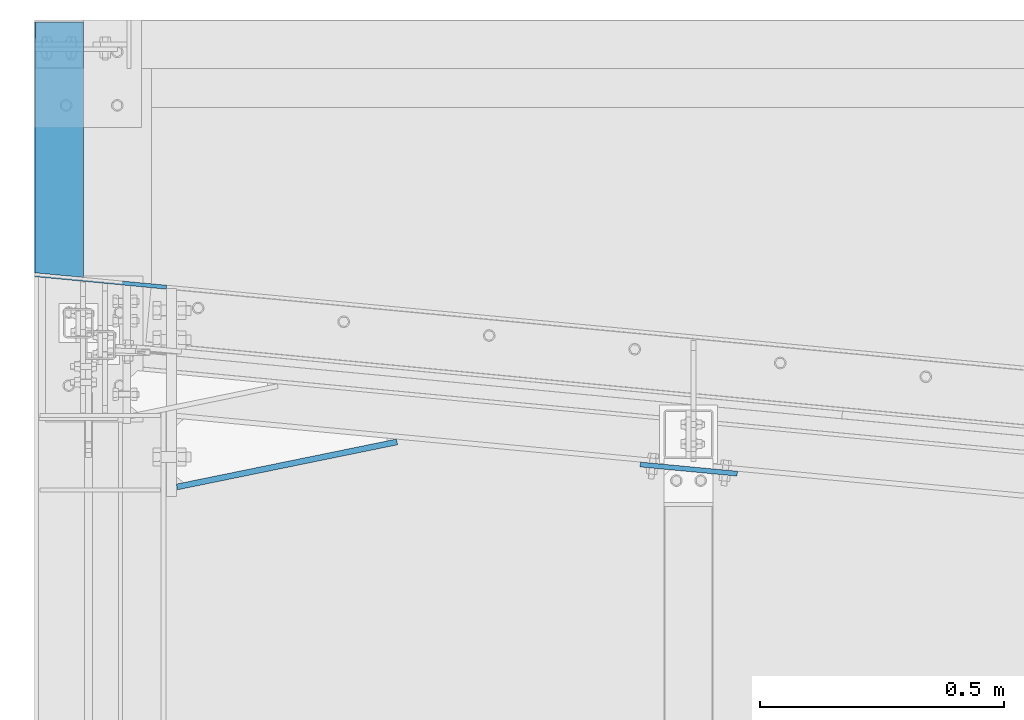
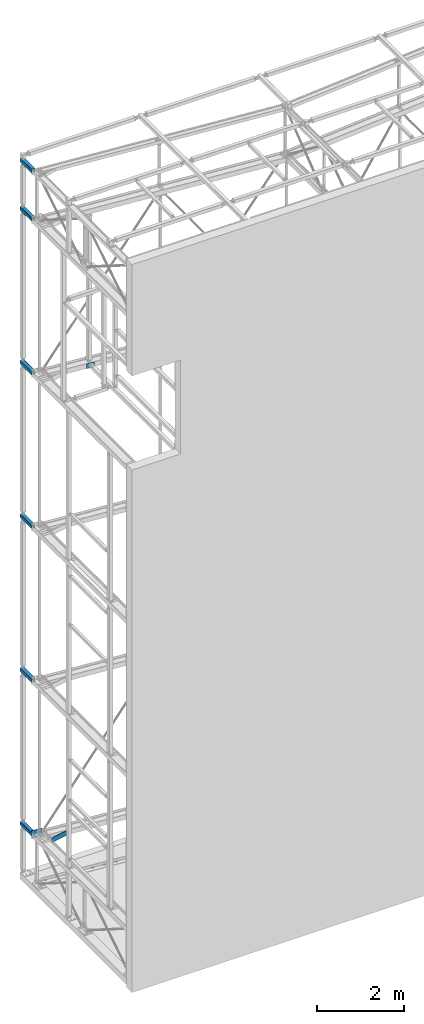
# One storey, part 76 of 271: 9 beams, 8 elements without a shape of their own.
"""IFC2X3 building model written with IfcOpenShell, lengths in millimetres."""

import ifcopenshell
import ifcopenshell.guid

model = None  # the IFC model being written
_history = None  # IfcOwnerHistory: only IFC2X3 demands one
_inside = {}  # id of a spatial element -> (the spatial element, [elements in it])
_under = {}  # id of a project, library or spatial element -> (it, [spatial elements below it])
_declared = {}  # id of a project -> (the project, [libraries it declares])
_typed = {}  # id of a type object -> (the type object, [elements of that type])
_made_of = {}  # id of a material, layer set ... -> (it, [elements and type objects made of it])


def new_model(schema):
    """Start an empty IFC model of exactly this schema.

    Asked for "IFC4X3", IfcOpenShell would pick the latest addendum, in which some entities
    have other attributes; the version numbers below select the first issue.
    IFC2X3 requires an IfcOwnerHistory on every rooted entity: one is made here for all.
    """
    global model, _history
    if schema == "IFC4X3":
        model = ifcopenshell.file(schema_version=(4, 3, 0, 0))
    else:
        model = ifcopenshell.file(schema=schema)
    _inside.clear()
    _under.clear()
    _declared.clear()
    _typed.clear()
    _made_of.clear()
    _history = None
    if model.schema == "IFC2X3":
        org = make("IfcOrganization", Name="unknown")
        user = make(
            "IfcPersonAndOrganization",
            ThePerson=make("IfcPerson", FamilyName="unknown"),
            TheOrganization=org,
        )
        app = make(
            "IfcApplication",
            ApplicationDeveloper=org,
            Version="unknown",
            ApplicationFullName="unknown",
            ApplicationIdentifier="unknown",
        )
        _history = make(
            "IfcOwnerHistory",
            OwningUser=user,
            OwningApplication=app,
            ChangeAction="ADDED",
            CreationDate=0,
        )
    return model


def make(cls, **values):
    """One entity of the class cls with the attributes given. An attribute that is None is left unset."""
    return model.create_entity(
        cls, **{name: value for name, value in values.items() if value is not None}
    )


def rooted(cls, **values):
    """An entity with a GlobalId (a new one), such as an element, a storey or a relation."""
    return make(cls, GlobalId=ifcopenshell.guid.new(), OwnerHistory=_history, **values)


def si_unit(unit_type, name, prefix=None):
    """IfcSIUnit, for example si_unit("LENGTHUNIT", "METRE", prefix="MILLI")."""
    return make("IfcSIUnit", UnitType=unit_type, Prefix=prefix, Name=name)


def assignment(units):
    """IfcUnitAssignment: the units of a project."""
    return None if units is None else make("IfcUnitAssignment", Units=units)


def point(xyz):
    """IfcCartesianPoint."""
    return None if xyz is None else make("IfcCartesianPoint", Coordinates=xyz)


def direction(xyz):
    """IfcDirection."""
    return None if xyz is None else make("IfcDirection", DirectionRatios=xyz)


def frame(location, z_axis=None, x_axis=None):
    """IfcAxis2Placement3D, a coordinate frame: its origin and axes. An axis left out is left unset."""
    return make(
        "IfcAxis2Placement3D",
        Location=point(location),
        Axis=direction(z_axis),
        RefDirection=direction(x_axis),
    )


def frame_2d(location, x_axis=None):
    """IfcAxis2Placement2D, a coordinate frame in the plane: its origin and x axis."""
    return make(
        "IfcAxis2Placement2D", Location=point(location), RefDirection=direction(x_axis)
    )


def origin_with_axes():
    """The frame at (0, 0, 0) with the z axis (0, 0, 1) and the x axis (1, 0, 0) written out."""
    return frame((0.0, 0.0, 0.0), z_axis=(0.0, 0.0, 1.0), x_axis=(1.0, 0.0, 0.0))


def origin_2d_with_axis():
    """The frame at (0, 0) in the plane with the x axis (1, 0) written out."""
    return frame_2d((0.0, 0.0), x_axis=(1.0, 0.0))


def place(relative_to, where):
    """IfcLocalPlacement: puts the frame where relative to a parent placement (None: the world)."""
    return make(
        "IfcLocalPlacement", PlacementRelTo=relative_to, RelativePlacement=where
    )


def context(
    kind, dimensions, precision=None, world=None, true_north=None, identifier=None
):
    """IfcGeometricRepresentationContext, for example the 3D "Model" context."""
    return make(
        "IfcGeometricRepresentationContext",
        ContextIdentifier=identifier,
        ContextType=kind,
        CoordinateSpaceDimension=dimensions,
        Precision=precision,
        WorldCoordinateSystem=world,
        TrueNorth=true_north,
    )


def subcontext(parent, identifier, kind, view, scale=None):
    """IfcGeometricRepresentationSubContext, for example "Body" below "Model"."""
    return make(
        "IfcGeometricRepresentationSubContext",
        ContextIdentifier=identifier,
        ContextType=kind,
        ParentContext=parent,
        TargetScale=scale,
        TargetView=view,
    )


def project(units=None, contexts=None):
    """IfcProject with its units and contexts."""
    return rooted(
        "IfcProject",
        Name="project",
        RepresentationContexts=contexts,
        UnitsInContext=assignment(units),
    )


def spatial(cls, under=None, at=None, **own):
    """A site, building, storey or space (cls), placed at a placement, below another one or the project."""
    s = rooted(cls, ObjectPlacement=at, **own)
    if under is not None:
        _under.setdefault(under.id(), (under, []))[1].append(s)
    return s


def profile(cls, at=None, kind="AREA", **sizes):
    """A parametric profile (cls). Its sizes go by their IFC names, for example OverallWidth=200.0."""
    return make(cls, ProfileType=kind, Position=at, **sizes)


def rectangle(**sizes):
    """IfcRectangleProfileDef."""
    return profile("IfcRectangleProfileDef", **sizes)


def hollow_rectangle(**sizes):
    """IfcRectangleHollowProfileDef."""
    return profile("IfcRectangleHollowProfileDef", **sizes)


def extrude(swept, where, along, depth):
    """IfcExtrudedAreaSolid: the profile swept, set in the frame where, extruded along a direction by depth."""
    return make(
        "IfcExtrudedAreaSolid",
        SweptArea=swept,
        Position=where,
        ExtrudedDirection=direction(along),
        Depth=depth,
    )


def boolean(op, a, b):
    """IfcBooleanResult of two solids."""
    return make("IfcBooleanResult", Operator=op, FirstOperand=a, SecondOperand=b)


def halfspace(plane, agree):
    """IfcHalfSpaceSolid: all space on one side of the plane z = 0 of the frame plane."""
    return make(
        "IfcHalfSpaceSolid",
        BaseSurface=make("IfcPlane", Position=plane),
        AgreementFlag=agree,
    )


def shape(context_of_items, identifier, shape_type, items):
    """IfcShapeRepresentation: the items that make up one representation, for example the "Body"."""
    return make(
        "IfcShapeRepresentation",
        ContextOfItems=context_of_items,
        RepresentationIdentifier=identifier,
        RepresentationType=shape_type,
        Items=items,
    )


def material(Name=None, Category=None):
    """IfcMaterial."""
    return make("IfcMaterial", Name=Name, Category=Category)


def made_of(thing, what):
    """Note that an element or type object is made of a material, layer set ...; save() writes the relation."""
    if what is not None:
        _made_of.setdefault(what.id(), (what, []))[1].append(thing)
    return thing


def type_object(cls, material=None, **own):
    """A type object (cls), such as IfcWallType, which elements share."""
    return made_of(rooted(cls, **own), material)


def element(
    cls,
    number,
    at=None,
    inside=None,
    cuts=None,
    type_object=None,
    material=None,
    context=None,
    identifier="Body",
    shape_type=None,
    held_by="IfcProductDefinitionShape",
    body=None,
    shapes=None,
    **own,
):
    """One element of the class cls, such as IfcWall. Its Tag is "e" and its number.

    at: its placement. inside: the storey or other place that contains it. cuts: it is an
    opening in that element (IfcRelVoidsElement). A single representation is given by context,
    identifier, shape_type and body (its items); several are given by shapes. held_by: the class
    of the entity that holds the representations. save() writes the other relations.
    """
    e = rooted(cls, Tag="e%d" % number, ObjectPlacement=at, **own)
    if body is not None:
        shapes = [shape(context, identifier, shape_type, body)]
    if shapes is not None:
        e.Representation = make(held_by, Representations=shapes)
    if inside is not None:
        _inside.setdefault(inside.id(), (inside, []))[1].append(e)
    if cuts is not None:
        rooted(
            "IfcRelVoidsElement", RelatingBuildingElement=cuts, RelatedOpeningElement=e
        )
    if type_object is not None:
        _typed.setdefault(type_object.id(), (type_object, []))[1].append(e)
    return made_of(e, material)


def aggregate(whole, parts):
    """IfcRelAggregates: a whole, such as a stair, and the parts it consists of."""
    return rooted("IfcRelAggregates", RelatingObject=whole, RelatedObjects=parts)


def save(model, path):
    """Write the relations noted so far, then the file.

    IfcRelAggregates (storeys below a building ...), IfcRelContainedInSpatialStructure (elements
    in a storey), IfcRelDefinesByType, IfcRelAssociatesMaterial and IfcRelDeclares: one each for
    every whole, place, type object, material and project.
    """
    for whole, parts in _under.values():
        aggregate(whole, parts)
    for where, things in _inside.values():
        rooted(
            "IfcRelContainedInSpatialStructure",
            RelatedElements=things,
            RelatingStructure=where,
        )
    for kind, things in _typed.values():
        rooted("IfcRelDefinesByType", RelatedObjects=things, RelatingType=kind)
    for what, things in _made_of.values():
        rooted("IfcRelAssociatesMaterial", RelatedObjects=things, RelatingMaterial=what)
    for by, libraries in _declared.values():
        rooted("IfcRelDeclares", RelatingContext=by, RelatedDefinitions=libraries)
    model.write(path)


model = new_model("IFC2X3")

# Units and contexts
model_context = context("Model", 3, precision=1e-05, world=origin_with_axes())
body_context = subcontext(model_context, "Body", "Model", "MODEL_VIEW")
ifc_project = project(units=[si_unit("LENGTHUNIT", "METRE", prefix="MILLI"), si_unit("AREAUNIT", "SQUARE_METRE"), si_unit("VOLUMEUNIT", "CUBIC_METRE"), si_unit("MASSUNIT", "GRAM", prefix="KILO"), si_unit("TIMEUNIT", "SECOND"), si_unit("PLANEANGLEUNIT", "RADIAN"), si_unit("SOLIDANGLEUNIT", "STERADIAN"), si_unit("THERMODYNAMICTEMPERATUREUNIT", "DEGREE_CELSIUS"), si_unit("LUMINOUSINTENSITYUNIT", "LUMEN")], contexts=[model_context])

# Site, building, storey
site_placement = place(None, origin_with_axes())
site = spatial("IfcSite", under=ifc_project, at=site_placement, Name="Undefined", CompositionType="ELEMENT")
building_placement = place(site_placement, origin_with_axes())
building = spatial("IfcBuilding", under=site, at=building_placement, Name="Undefined", CompositionType="ELEMENT")
storey_placement = place(building_placement, origin_with_axes())
storey = spatial("IfcBuildingStorey", under=building, at=storey_placement, Name="Undefined", CompositionType="ELEMENT", Elevation=0.0)

# Assembly, beam
assembly_1_placement = place(storey_placement, origin_with_axes())
assembly_1 = element("IfcElementAssembly", 1, at=assembly_1_placement, inside=storey, AssemblyPlace="NOTDEFINED", PredefinedType="RIGID_FRAME")
ifc_material = material(Name="STEEL/S355JR")
beam_type_1 = type_object("IfcBeamType", Name="SHS100*3", PredefinedType="NOTDEFINED")
beam_1_placement = place(assembly_1_placement, frame((38.3756870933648, 4959.32498425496, 1364.34999990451), z_axis=(-1.0, 0.0, 1.38777878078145e-17), x_axis=(0.0, -1.0, 0.0)))
beam_1 = element("IfcBeam", 2, at=beam_1_placement, type_object=beam_type_1, material=ifc_material, Name="SŁUPEK", ObjectType="SHS100*3", context=body_context, shape_type="CSG", body=[
    boolean("DIFFERENCE", boolean("DIFFERENCE", extrude(hollow_rectangle(XDim=100.0, YDim=100.0, WallThickness=3.0, InnerFilletRadius=3.0, OuterFilletRadius=6.0, at=origin_2d_with_axis()), frame((544.272864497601, 0.0, 0.0), z_axis=(-1.0, 0.0, 1.38777878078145e-17), x_axis=(0.0, -1.0, 0.0)), (0.0, 0.0, 1.0), 544.27), extrude(rectangle(XDim=80.0, YDim=335.0, at=origin_2d_with_axis()), frame((584.166929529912, 3.63797880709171e-12, -216.99447696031), z_axis=(-0.0939225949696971, 0.0, 0.995579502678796), x_axis=(0.995579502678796, 0.0, 0.0939225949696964)), (0.0, 0.0, 1.0), 300.0)), halfspace(frame((4.0, 0.0, -50.0), z_axis=(1.0, 0.0, 0.0), x_axis=(0.0, -1.0, 0.0)), True)),
])

assembly_2_placement = place(storey_placement, origin_with_axes())
assembly_2 = element("IfcElementAssembly", 3, at=assembly_2_placement, inside=storey, AssemblyPlace="NOTDEFINED", PredefinedType="RIGID_FRAME")
beam_2_placement = place(assembly_2_placement, frame((38.3756870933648, 4959.32498425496, 5684.34999990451), z_axis=(-1.0, 0.0, 1.38777878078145e-17), x_axis=(0.0, -1.0, 0.0)))
beam_2 = element("IfcBeam", 4, at=beam_2_placement, type_object=beam_type_1, material=ifc_material, Name="SŁUPEK", ObjectType="SHS100*3", context=body_context, shape_type="CSG", body=[
    boolean("DIFFERENCE", boolean("DIFFERENCE", extrude(hollow_rectangle(XDim=100.0, YDim=100.0, WallThickness=3.0, InnerFilletRadius=3.0, OuterFilletRadius=6.0, at=origin_2d_with_axis()), frame((544.272864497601, 0.0, 0.0), z_axis=(-1.0, 0.0, 1.38777878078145e-17), x_axis=(0.0, -1.0, 0.0)), (0.0, 0.0, 1.0), 544.27), extrude(rectangle(XDim=80.0, YDim=335.0, at=origin_2d_with_axis()), frame((584.166929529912, 3.63797880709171e-12, -216.99447696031), z_axis=(-0.0939225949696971, 0.0, 0.995579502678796), x_axis=(0.995579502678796, 0.0, 0.0939225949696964)), (0.0, 0.0, 1.0), 300.0)), halfspace(frame((4.0, 0.0, -50.0), z_axis=(1.0, 0.0, 0.0), x_axis=(0.0, -1.0, 0.0)), True)),
])
aggregate(assembly_2, [beam_2])

assembly_3_placement = place(storey_placement, origin_with_axes())
assembly_3 = element("IfcElementAssembly", 5, at=assembly_3_placement, inside=storey, AssemblyPlace="NOTDEFINED", PredefinedType="RIGID_FRAME")
beam_3_placement = place(assembly_3_placement, frame((38.3756870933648, 4959.32498425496, 10004.3499999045), z_axis=(-1.0, 0.0, 1.38777878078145e-17), x_axis=(0.0, -1.0, 0.0)))
beam_3 = element("IfcBeam", 6, at=beam_3_placement, type_object=beam_type_1, material=ifc_material, Name="SŁUPEK", ObjectType="SHS100*3", context=body_context, shape_type="CSG", body=[
    boolean("DIFFERENCE", boolean("DIFFERENCE", extrude(hollow_rectangle(XDim=100.0, YDim=100.0, WallThickness=3.0, InnerFilletRadius=3.0, OuterFilletRadius=6.0, at=origin_2d_with_axis()), frame((544.272864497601, 0.0, 0.0), z_axis=(-1.0, 0.0, 1.38777878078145e-17), x_axis=(0.0, -1.0, 0.0)), (0.0, 0.0, 1.0), 544.27), extrude(rectangle(XDim=80.0, YDim=335.0, at=origin_2d_with_axis()), frame((584.166929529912, 3.63797880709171e-12, -216.99447696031), z_axis=(-0.0939225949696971, 0.0, 0.995579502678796), x_axis=(0.995579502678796, 0.0, 0.0939225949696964)), (0.0, 0.0, 1.0), 300.0)), halfspace(frame((4.0, 0.0, -50.0), z_axis=(1.0, 0.0, 0.0), x_axis=(0.0, -1.0, 0.0)), True)),
])
aggregate(assembly_3, [beam_3])

assembly_4_placement = place(storey_placement, origin_with_axes())
assembly_4 = element("IfcElementAssembly", 7, at=assembly_4_placement, inside=storey, AssemblyPlace="NOTDEFINED", PredefinedType="RIGID_FRAME")
beam_4_placement = place(assembly_4_placement, frame((38.3756870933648, 4959.32498425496, 14324.3499999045), z_axis=(-1.0, 0.0, 1.38777878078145e-17), x_axis=(0.0, -1.0, 0.0)))
beam_4 = element("IfcBeam", 8, at=beam_4_placement, type_object=beam_type_1, material=ifc_material, Name="SŁUPEK", ObjectType="SHS100*3", context=body_context, shape_type="CSG", body=[
    boolean("DIFFERENCE", boolean("DIFFERENCE", extrude(hollow_rectangle(XDim=100.0, YDim=100.0, WallThickness=3.0, InnerFilletRadius=3.0, OuterFilletRadius=6.0, at=origin_2d_with_axis()), frame((544.272864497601, 0.0, 0.0), z_axis=(-1.0, 0.0, 1.38777878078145e-17), x_axis=(0.0, -1.0, 0.0)), (0.0, 0.0, 1.0), 544.27), extrude(rectangle(XDim=80.0, YDim=335.0, at=origin_2d_with_axis()), frame((584.166929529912, 3.63797880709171e-12, -216.99447696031), z_axis=(-0.0939225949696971, 0.0, 0.995579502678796), x_axis=(0.995579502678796, 0.0, 0.0939225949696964)), (0.0, 0.0, 1.0), 300.0)), halfspace(frame((4.0, 0.0, -50.0), z_axis=(1.0, 0.0, 0.0), x_axis=(0.0, -1.0, 0.0)), True)),
])
aggregate(assembly_4, [beam_4])

assembly_5_placement = place(storey_placement, origin_with_axes())
assembly_5 = element("IfcElementAssembly", 9, at=assembly_5_placement, inside=storey, AssemblyPlace="NOTDEFINED", PredefinedType="RIGID_FRAME")
beam_5_placement = place(assembly_5_placement, frame((38.3756870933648, 4959.32498425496, 20004.3499999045), z_axis=(-1.0, 0.0, 1.38777878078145e-17), x_axis=(0.0, -1.0, 0.0)))
beam_5 = element("IfcBeam", 10, at=beam_5_placement, type_object=beam_type_1, material=ifc_material, Name="SŁUPEK", ObjectType="SHS100*3", context=body_context, shape_type="CSG", body=[
    boolean("DIFFERENCE", boolean("DIFFERENCE", extrude(hollow_rectangle(XDim=100.0, YDim=100.0, WallThickness=3.0, InnerFilletRadius=3.0, OuterFilletRadius=6.0, at=origin_2d_with_axis()), frame((535.782298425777, 0.0, 0.0), z_axis=(-1.0, 0.0, 1.38777878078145e-17), x_axis=(0.0, -1.0, 0.0)), (0.0, 0.0, 1.0), 535.78), extrude(rectangle(XDim=80.0, YDim=335.0, at=origin_2d_with_axis()), frame((584.149208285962, -92.0000000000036, -216.806631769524), z_axis=(-0.0939225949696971, 0.0, 0.995579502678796), x_axis=(0.995579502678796, 0.0, 0.0939225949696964)), (0.0, 0.0, 1.0), 300.0)), halfspace(frame((4.0, 0.0, -50.0), z_axis=(1.0, 0.0, 0.0), x_axis=(0.0, -1.0, 0.0)), True)),
])
aggregate(assembly_5, [beam_5])

assembly_6_placement = place(storey_placement, origin_with_axes())
assembly_6 = element("IfcElementAssembly", 11, at=assembly_6_placement, inside=storey, AssemblyPlace="NOTDEFINED", PredefinedType="RIGID_FRAME")
beam_6_placement = place(assembly_6_placement, frame((38.3756870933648, 4959.32498425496, 18644.3499999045), z_axis=(-1.0, 0.0, 1.38777878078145e-17), x_axis=(0.0, -1.0, 0.0)))
beam_6 = element("IfcBeam", 12, at=beam_6_placement, type_object=beam_type_1, material=ifc_material, Name="SŁUPEK", ObjectType="SHS100*3", context=body_context, shape_type="CSG", body=[
    boolean("DIFFERENCE", boolean("DIFFERENCE", extrude(hollow_rectangle(XDim=100.0, YDim=100.0, WallThickness=3.0, InnerFilletRadius=3.0, OuterFilletRadius=6.0, at=origin_2d_with_axis()), frame((544.272864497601, 0.0, 0.0), z_axis=(-1.0, 0.0, 1.38777878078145e-17), x_axis=(0.0, -1.0, 0.0)), (0.0, 0.0, 1.0), 544.27), extrude(rectangle(XDim=80.0, YDim=335.0, at=origin_2d_with_axis()), frame((584.166929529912, 3.63797880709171e-12, -216.99447696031), z_axis=(-0.0939225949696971, 0.0, 0.995579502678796), x_axis=(0.995579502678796, 0.0, 0.0939225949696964)), (0.0, 0.0, 1.0), 300.0)), halfspace(frame((4.0, 0.0, -50.0), z_axis=(1.0, 0.0, 0.0), x_axis=(0.0, -1.0, 0.0)), True)),
])
aggregate(assembly_6, [beam_6])

assembly_7_placement = place(storey_placement, origin_with_axes())
assembly_7 = element("IfcElementAssembly", 13, at=assembly_7_placement, inside=storey, AssemblyPlace="NOTDEFINED", PredefinedType="RIGID_FRAME")
beam_type_2 = type_object("IfcBeamType", Name="BL10*135", PredefinedType="NOTDEFINED")
beam_7_placement = place(assembly_7_placement, frame((1430.40226139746, 4028.26254027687, 14323.8499999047), z_axis=(0.0, 0.0, -1.0), x_axis=(-0.995579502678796, 0.0939225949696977, 0.0)))
beam_7 = element("IfcBeam", 14, at=beam_7_placement, type_object=beam_type_2, material=ifc_material, Name="BLACHA", ObjectType="BL10*135", context=body_context, shape_type="SweptSolid", body=[
    extrude(rectangle(XDim=10.0, YDim=135.0, at=origin_2d_with_axis()), frame((199.998013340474, 0.0, 0.0), z_axis=(-1.0, 0.0, 1.38777878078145e-17), x_axis=(0.0, -1.0, 0.0)), (0.0, 0.0, 1.0), 200.0),
])
aggregate(assembly_7, [beam_7])

assembly_8_placement = place(storey_placement, origin_with_axes())
assembly_8 = element("IfcElementAssembly", 15, at=assembly_8_placement, inside=storey, AssemblyPlace="NOTDEFINED", PredefinedType="RIGID_FRAME")
beam_type_3 = type_object("IfcBeamType", Name="BL12*135", PredefinedType="NOTDEFINED")
beam_8_placement = place(assembly_8_placement, frame((280.578183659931, 4000.99388878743, 1364.34999990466), z_axis=(0.0, 0.0, 1.0), x_axis=(0.979710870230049, 0.20041609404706, 0.0)))
beam_8 = element("IfcBeam", 16, at=beam_8_placement, type_object=beam_type_3, material=ifc_material, Name="BLACHA", ObjectType="BL12*135", context=body_context, shape_type="SweptSolid", body=[
    extrude(rectangle(XDim=12.0, YDim=135.0, at=origin_2d_with_axis()), frame((460.999999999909, 0.0, 9.09494701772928e-13), z_axis=(-1.0, 0.0, 1.38777878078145e-17), x_axis=(0.0, -1.0, 0.0)), (0.0, 0.0, 1.0), 461.0),
])
aggregate(assembly_8, [beam_8])

# Beam
beam_type_4 = type_object("IfcBeamType", Name="BL8*220", PredefinedType="NOTDEFINED")
beam_9_placement = place(assembly_1_placement, frame((-11.2486225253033, 4436.47061503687, 1364.34999990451), z_axis=(0.0, 0.0, 1.0), x_axis=(0.995579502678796, -0.0939225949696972, 0.0)))
beam_9 = element("IfcBeam", 17, at=beam_9_placement, type_object=beam_type_4, material=ifc_material, Name="BLACHA", ObjectType="BL8*220", context=body_context, shape_type="SweptSolid", body=[
    extrude(rectangle(XDim=8.0, YDim=220.0, at=origin_2d_with_axis()), frame((271.198833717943, 0.0, 9.09494701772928e-13), z_axis=(-1.0, 0.0, 1.38777878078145e-17), x_axis=(0.0, -1.0, 0.0)), (0.0, 0.0, 1.0), 271.2),
])

aggregate(assembly_1, [beam_9, beam_1])

save(model, "model.ifc")
